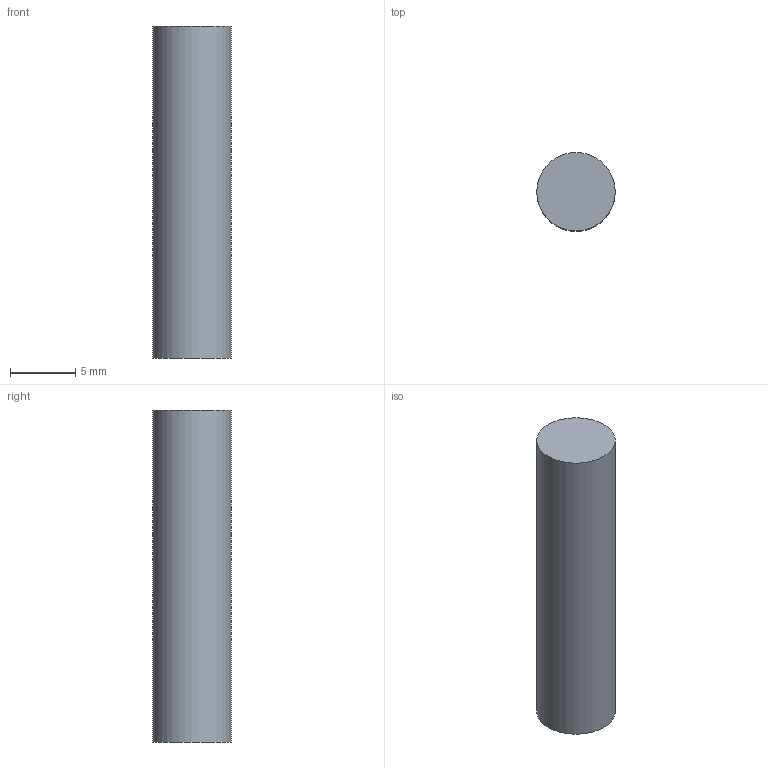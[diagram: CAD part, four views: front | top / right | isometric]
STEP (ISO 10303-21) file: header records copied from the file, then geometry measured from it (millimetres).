
FILE_DESCRIPTION((''),'2;1');
FILE_NAME('C:\Documents and Settings\Administrator\My Documents\Andys Backup Data\STEP LIBRARIES\MINITEC STEP LIBRARIES\EDGE COVER SLIDE AND SEALING PROFILES\22.1077 PVC BAR.stp','2008-10-27T08:25:38',('Administrator'),(''),'Autodesk Inventor 2009','Autodesk Inventor 2009','');
FILE_SCHEMA(('AUTOMOTIVE_DESIGN { 1 0 10303 214 1 1 1 1 }'));
Length unit declared in the file: inch
Products named in the file (1): 22.1077 PVC BAR
Bounding box: 6 x 6 x 25.4 mm (x, y, z)
Volume: 718.2 mm3; surface area: 535.3 mm2
Topology: 1 solids, 1 shells, 3 faces, 3 edges, 2 vertices
Faces by surface type: plane 2, cylinder 1
Full cylindrical faces by diameter (mm): 6 x1
Entity records: 82 total; most frequent: DIRECTION 12, CARTESIAN_POINT 8, AXIS2_PLACEMENT_3D 6, ORIENTED_EDGE 4, EDGE_LOOP 4, DIMENSIONAL_EXPONENTS 3, FACE_OUTER_BOUND 3, ADVANCED_FACE 3
